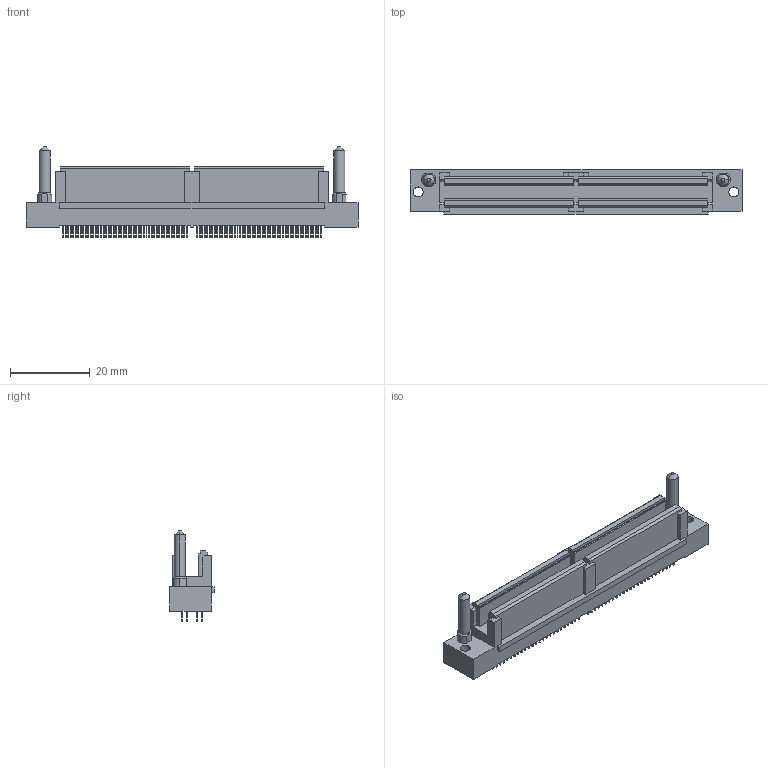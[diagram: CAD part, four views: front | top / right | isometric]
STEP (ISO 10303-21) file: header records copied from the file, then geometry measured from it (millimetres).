
FILE_DESCRIPTION (( 'STEP AP203' ), '1' );
FILE_NAME ('STEP.STEP', '2016-10-24T02:52:04', ( '' ), ( '' ), 'SwSTEP 2.0', 'SolidWorks 2014', '' );
FILE_SCHEMA (( 'CONFIG_CONTROL_DESIGN' ));
Length unit declared in the file: millimetre
Products named in the file (1): STEP
Bounding box: 83.4 x 11.13 x 22.66 mm (x, y, z)
Volume: 8784.8 mm3; surface area: 6118.6 mm2
Topology: 5 solids, 5 shells, 1126 faces, 2742 edges, 1826 vertices
Faces by surface type: plane 1104, cylinder 14, cone 8
Entity records: 32421 total; most frequent: CARTESIAN_POINT 5731, ORIENTED_EDGE 5484, DIRECTION 5030, EDGE_CURVE 2742, LINE 2700, VECTOR 2700, VERTEX_POINT 1826, EDGE_LOOP 1330
